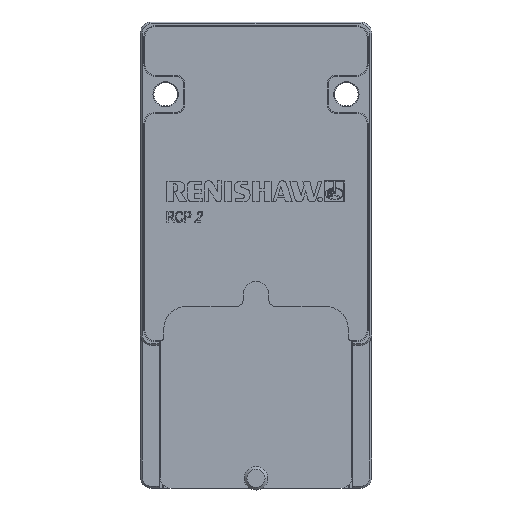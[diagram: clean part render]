
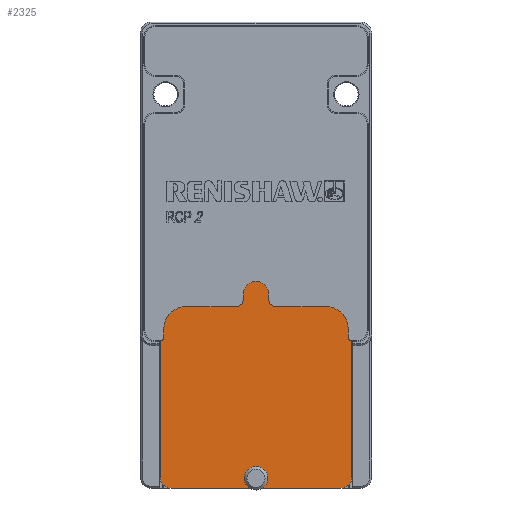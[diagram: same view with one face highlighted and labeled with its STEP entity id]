
A CAD part, top view. The second image highlights one B-rep face of the part: STEP entity #2325.
In plain terms, the highlighted planar face has unit normal (0, 0, 1).
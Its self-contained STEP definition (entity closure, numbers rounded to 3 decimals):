
#1878=FACE_BOUND('',#2933,.T.);
#1879=FACE_BOUND('',#2934,.T.);
#2108=CIRCLE('',#6491,2.5);
#2109=CIRCLE('',#6492,3.);
#2110=CIRCLE('',#6493,3.);
#2111=CIRCLE('',#6494,4.);
#2112=CIRCLE('',#6495,3.);
#2113=CIRCLE('',#6496,3.);
#2114=CIRCLE('',#6497,3.);
#2115=CIRCLE('',#6498,3.);
#2116=CIRCLE('',#6499,4.);
#2325=ADVANCED_FACE('',(#1878,#1879),#2473,.T.);
#2473=PLANE('',#6500);
#2933=EDGE_LOOP('',(#4174));
#2934=EDGE_LOOP('',(#4175,#4176,#4177,#4178,#4179,#4180,#4181,#4182,#4183,
#4184,#4185,#4186,#4187,#4188,#4189,#4190));
#4174=ORIENTED_EDGE('',*,*,#5367,.F.);
#4175=ORIENTED_EDGE('',*,*,#5368,.F.);
#4176=ORIENTED_EDGE('',*,*,#5369,.T.);
#4177=ORIENTED_EDGE('',*,*,#5370,.F.);
#4178=ORIENTED_EDGE('',*,*,#5371,.T.);
#4179=ORIENTED_EDGE('',*,*,#5372,.T.);
#4180=ORIENTED_EDGE('',*,*,#5373,.T.);
#4181=ORIENTED_EDGE('',*,*,#5374,.T.);
#4182=ORIENTED_EDGE('',*,*,#5375,.T.);
#4183=ORIENTED_EDGE('',*,*,#5376,.F.);
#4184=ORIENTED_EDGE('',*,*,#5377,.T.);
#4185=ORIENTED_EDGE('',*,*,#5378,.F.);
#4186=ORIENTED_EDGE('',*,*,#5379,.T.);
#4187=ORIENTED_EDGE('',*,*,#5380,.F.);
#4188=ORIENTED_EDGE('',*,*,#5381,.T.);
#4189=ORIENTED_EDGE('',*,*,#5382,.F.);
#4190=ORIENTED_EDGE('',*,*,#5383,.F.);
#4731=VERTEX_POINT('',#9567);
#4732=VERTEX_POINT('',#9569);
#4733=VERTEX_POINT('',#9570);
#4734=VERTEX_POINT('',#9572);
#4735=VERTEX_POINT('',#9574);
#4736=VERTEX_POINT('',#9576);
#4737=VERTEX_POINT('',#9578);
#4738=VERTEX_POINT('',#9580);
#4739=VERTEX_POINT('',#9582);
#4740=VERTEX_POINT('',#9584);
#4741=VERTEX_POINT('',#9586);
#4742=VERTEX_POINT('',#9588);
#4743=VERTEX_POINT('',#9590);
#4744=VERTEX_POINT('',#9592);
#4745=VERTEX_POINT('',#9594);
#4746=VERTEX_POINT('',#9596);
#4747=VERTEX_POINT('',#9598);
#5367=EDGE_CURVE('',#4731,#4731,#2108,.T.);
#5368=EDGE_CURVE('',#4732,#4733,#5741,.T.);
#5369=EDGE_CURVE('',#4732,#4734,#2109,.T.);
#5370=EDGE_CURVE('',#4735,#4734,#5742,.T.);
#5371=EDGE_CURVE('',#4735,#4736,#2110,.T.);
#5372=EDGE_CURVE('',#4736,#4737,#5743,.T.);
#5373=EDGE_CURVE('',#4737,#4738,#2111,.T.);
#5374=EDGE_CURVE('',#4738,#4739,#5744,.T.);
#5375=EDGE_CURVE('',#4739,#4740,#2112,.T.);
#5376=EDGE_CURVE('',#4741,#4740,#5745,.T.);
#5377=EDGE_CURVE('',#4741,#4742,#2113,.T.);
#5378=EDGE_CURVE('',#4743,#4742,#5746,.T.);
#5379=EDGE_CURVE('',#4743,#4744,#2114,.T.);
#5380=EDGE_CURVE('',#4745,#4744,#5747,.T.);
#5381=EDGE_CURVE('',#4745,#4746,#2115,.T.);
#5382=EDGE_CURVE('',#4747,#4746,#5748,.T.);
#5383=EDGE_CURVE('',#4733,#4747,#2116,.T.);
#5741=LINE('',#9568,#6099);
#5742=LINE('',#9573,#6100);
#5743=LINE('',#9577,#6101);
#5744=LINE('',#9581,#6102);
#5745=LINE('',#9585,#6103);
#5746=LINE('',#9589,#6104);
#5747=LINE('',#9593,#6105);
#5748=LINE('',#9597,#6106);
#6099=VECTOR('',#7606,1.);
#6100=VECTOR('',#7609,1.);
#6101=VECTOR('',#7612,1.);
#6102=VECTOR('',#7615,1.);
#6103=VECTOR('',#7618,1.);
#6104=VECTOR('',#7621,1.);
#6105=VECTOR('',#7624,1.);
#6106=VECTOR('',#7627,1.);
#6491=AXIS2_PLACEMENT_3D('',#9566,#7604,#7605);
#6492=AXIS2_PLACEMENT_3D('',#9571,#7607,#7608);
#6493=AXIS2_PLACEMENT_3D('',#9575,#7610,#7611);
#6494=AXIS2_PLACEMENT_3D('',#9579,#7613,#7614);
#6495=AXIS2_PLACEMENT_3D('',#9583,#7616,#7617);
#6496=AXIS2_PLACEMENT_3D('',#9587,#7619,#7620);
#6497=AXIS2_PLACEMENT_3D('',#9591,#7622,#7623);
#6498=AXIS2_PLACEMENT_3D('',#9595,#7625,#7626);
#6499=AXIS2_PLACEMENT_3D('',#9599,#7628,#7629);
#6500=AXIS2_PLACEMENT_3D('',#9600,#7630,#7631);
#7604=DIRECTION('',(0.,0.,1.));
#7605=DIRECTION('',(1.,0.,0.));
#7606=DIRECTION('',(0.,-1.,0.));
#7607=DIRECTION('',(0.,0.,1.));
#7608=DIRECTION('',(1.,0.,0.));
#7609=DIRECTION('',(1.,0.,0.));
#7610=DIRECTION('',(0.,0.,1.));
#7611=DIRECTION('',(1.,0.,0.));
#7612=DIRECTION('',(0.,-1.,0.));
#7613=DIRECTION('',(0.,0.,-1.));
#7614=DIRECTION('',(1.,0.,0.));
#7615=DIRECTION('',(-1.,0.,0.));
#7616=DIRECTION('',(0.,0.,1.));
#7617=DIRECTION('',(1.,0.,0.));
#7618=DIRECTION('',(0.,1.,0.));
#7619=DIRECTION('',(0.,0.,1.));
#7620=DIRECTION('',(1.,0.,0.));
#7621=DIRECTION('',(-1.,0.,0.));
#7622=DIRECTION('',(0.,0.,1.));
#7623=DIRECTION('',(1.,0.,0.));
#7624=DIRECTION('',(0.,-1.,0.));
#7625=DIRECTION('',(0.,0.,1.));
#7626=DIRECTION('',(1.,0.,0.));
#7627=DIRECTION('',(1.,0.,0.));
#7628=DIRECTION('',(0.,0.,1.));
#7629=DIRECTION('',(-1.,0.,0.));
#7630=DIRECTION('',(0.,0.,1.));
#7631=DIRECTION('',(1.,0.,0.));
#9566=CARTESIAN_POINT('',(0.,-21.65,14.));
#9567=CARTESIAN_POINT('',(2.5,-21.65,14.));
#9568=CARTESIAN_POINT('',(18.,57.6,14.));
#9569=CARTESIAN_POINT('',(18.,47.6,14.));
#9570=CARTESIAN_POINT('',(18.,31.6,14.));
#9571=CARTESIAN_POINT('',(15.,47.6,14.));
#9572=CARTESIAN_POINT('',(15.,50.6,14.));
#9573=CARTESIAN_POINT('',(0.,50.6,14.));
#9574=CARTESIAN_POINT('',(-15.,50.6,14.));
#9575=CARTESIAN_POINT('',(-15.,47.6,14.));
#9576=CARTESIAN_POINT('',(-18.,47.6,14.));
#9577=CARTESIAN_POINT('',(-18.,57.6,14.));
#9578=CARTESIAN_POINT('',(-18.,31.6,14.));
#9579=CARTESIAN_POINT('',(-22.,31.6,14.));
#9580=CARTESIAN_POINT('',(-22.,27.6,14.));
#9581=CARTESIAN_POINT('',(-22.,27.6,14.));
#9582=CARTESIAN_POINT('',(-23.5,27.6,14.));
#9583=CARTESIAN_POINT('',(-23.5,24.6,14.));
#9584=CARTESIAN_POINT('',(-26.5,24.6,14.));
#9585=CARTESIAN_POINT('',(-26.5,13.1,14.));
#9586=CARTESIAN_POINT('',(-26.5,-21.4,14.));
#9587=CARTESIAN_POINT('',(-23.5,-21.4,14.));
#9588=CARTESIAN_POINT('',(-23.5,-24.4,14.));
#9589=CARTESIAN_POINT('',(0.,-24.4,14.));
#9590=CARTESIAN_POINT('',(23.5,-24.4,14.));
#9591=CARTESIAN_POINT('',(23.5,-21.4,14.));
#9592=CARTESIAN_POINT('',(26.5,-21.4,14.));
#9593=CARTESIAN_POINT('',(26.5,13.1,14.));
#9594=CARTESIAN_POINT('',(26.5,24.6,14.));
#9595=CARTESIAN_POINT('',(23.5,24.6,14.));
#9596=CARTESIAN_POINT('',(23.5,27.6,14.));
#9597=CARTESIAN_POINT('',(22.,27.6,14.));
#9598=CARTESIAN_POINT('',(22.,27.6,14.));
#9599=CARTESIAN_POINT('',(22.,31.6,14.));
#9600=CARTESIAN_POINT('',(0.,13.1,14.));
